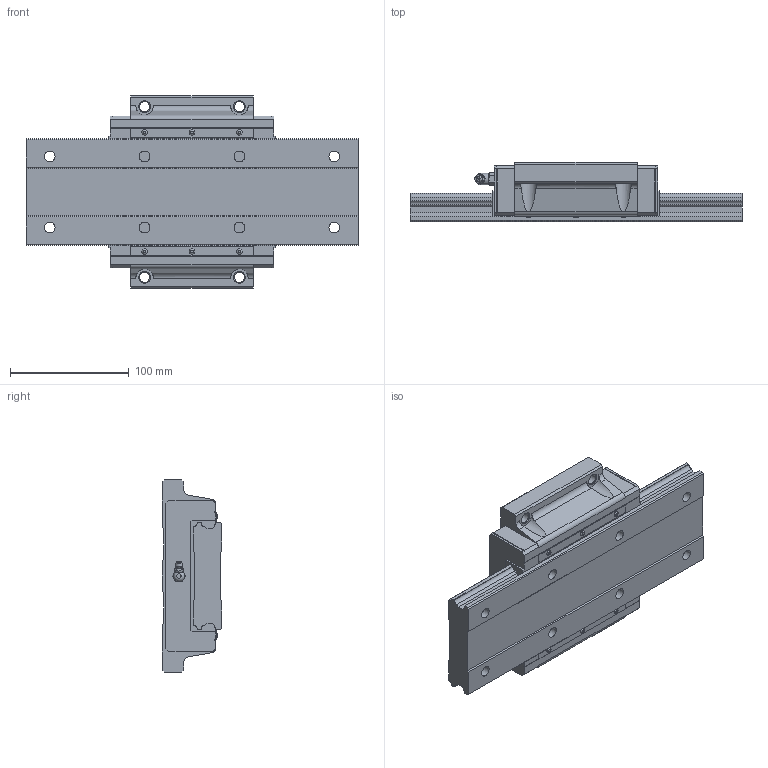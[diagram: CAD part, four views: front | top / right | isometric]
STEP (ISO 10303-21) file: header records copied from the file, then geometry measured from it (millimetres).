
FILE_DESCRIPTION(/* description */ ('STEP AP203'),/* implementation_level */ '2;1');
FILE_NAME(/* name */ 'HRW50CA1SS-280L_G20_0_B-PT18_69-75_0_0_0_1',/* time_stamp */ '2024-05-21T09:49:19+02:00',/* author */ ('License CC BY-ND 4.0'),/* organization */ ('CADENAS'),/* preprocessor_version */ 'ST-DEVELOPER v19.3',/* originating_system */ 'PARTsolutions',/* authorisation */ ' ');
FILE_SCHEMA (('CONFIG_CONTROL_DESIGN'));
Length unit declared in the file: millimetre
Products named in the file (4): HRW50CA1SS-280L_G20_0_B-PT18_69-75_0_0_0_1; HRW50CA28020 Track; HRW50CASSB-PT1/81 Slide17-60; HRW-B-PT1/8_grease_nipple_joint
Assembly tree (3 placements, depth 2):
  HRW50CA1SS-280L_G20_0_B-PT18_69-75_0_0_0_1
    HRW50CA28020 Track
    HRW50CASSB-PT1/81 Slide17-60
    HRW-B-PT1/8_grease_nipple_joint
Bounding box: 280 x 50 x 162 mm (x, y, z)
Volume: 1156012.6 mm3; surface area: 151715.2 mm2
Topology: 3 solids, 3 shells, 261 faces, 684 edges, 447 vertices
Faces by surface type: plane 179, cylinder 47, cone 24, torus 9, sphere 2
Full cylindrical faces by diameter (mm): 8.376 x2, 8.6 x4, 9 x8, 9.6 x1, 14 x8, 14.5 x2
Entity records: 7838 total; most frequent: CARTESIAN_POINT 1480, DIRECTION 1252, ORIENTED_EDGE 1230, EDGE_CURVE 615, VERTEX_POINT 440, LINE 438, VECTOR 438, AXIS2_PLACEMENT_3D 407
